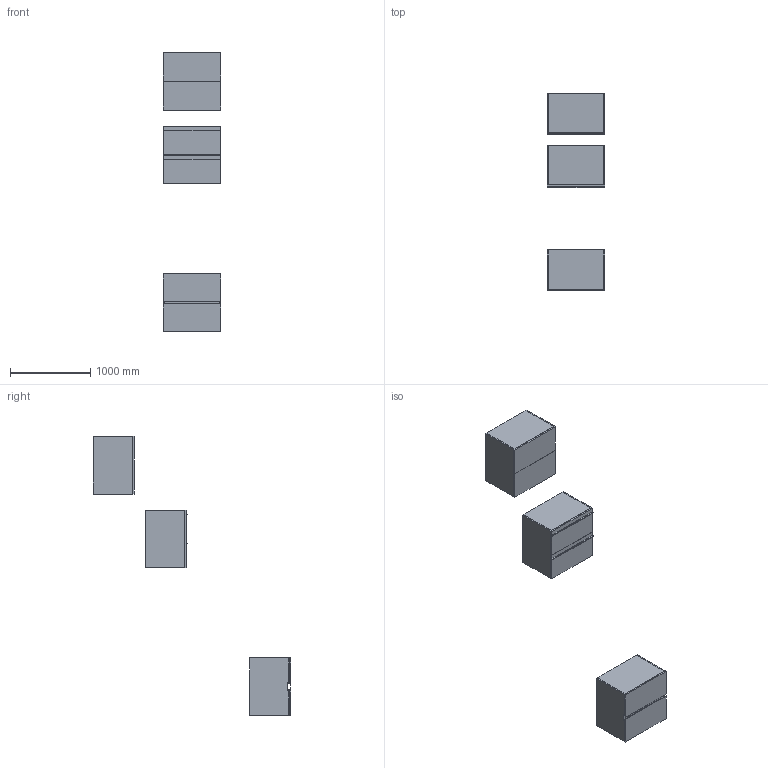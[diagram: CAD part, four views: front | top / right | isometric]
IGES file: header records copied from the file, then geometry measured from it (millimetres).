
Start section: Data from Parasolid IGES Translator 19.0.9, Copyright(c) 2006 Siemens PL M Software. All Rights Reserved.
Global section: file name: noorth-SI-H 72 D 51 W 72_8662.igs; native system: By Siemens PLM Incorporated; preprocessor: XPlus GENERIC/IGES 19.0.9; author: Noname; organization: Noname; date: 20200601.122126; units: metre
Bounding box: 720 x 2458 x 3480.01 mm (x, y, z)
Volume: 99100566.5 mm3; surface area: 15085683.8 mm2
Topology: 24 solids, 24 shells, 248 faces, 544 edges, 324 vertices
Faces by surface type: plane 164, extrusion 36, bspline 32, cylinder 16
